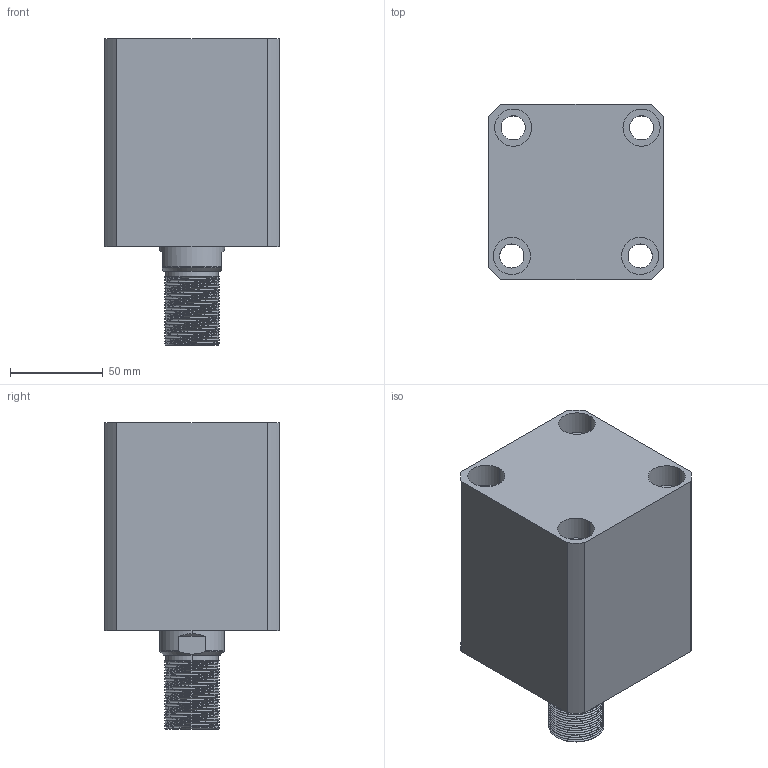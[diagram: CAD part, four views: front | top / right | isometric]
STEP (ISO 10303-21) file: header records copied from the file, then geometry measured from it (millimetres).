
FILE_DESCRIPTION (( 'STEP AP214' ), '1' );
FILE_NAME ('chtb-sdma63x45w_asm.STEP', '2018-05-18T09:21:56', ( 'Windows' ), ( 'Microsoft' ), 'SwSTEP 2.0', 'SolidWorks 2015', '' );
FILE_SCHEMA (( 'AUTOMOTIVE_DESIGN' ));
Length unit declared in the file: millimetre
Products named in the file (4): CHTB63X45WHSG; CHTB-63QG; chtb-sdma63x45w_asm; CHTB-SDMA63X45NBT
Assembly tree (3 placements, depth 2):
  chtb-sdma63x45w_asm
    CHTB-63QG
    CHTB63X45WHSG
    CHTB-SDMA63X45NBT
Bounding box: 94 x 94 x 165 mm (x, y, z)
Volume: 841749.1 mm3; surface area: 146346.9 mm2
Topology: 3 solids, 3 shells, 219 faces, 632 edges, 430 vertices
Faces by surface type: cylinder 156, plane 34, bspline 14, cone 9, torus 6
Entity records: 22297 total; most frequent: CARTESIAN_POINT 17024, ORIENTED_EDGE 1256, DIRECTION 878, EDGE_CURVE 628, VERTEX_POINT 430, AXIS2_PLACEMENT_3D 343, EDGE_LOOP 252, FACE_OUTER_BOUND 219
